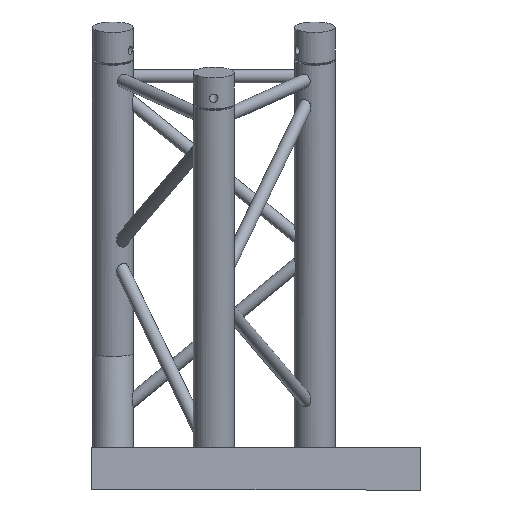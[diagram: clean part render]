
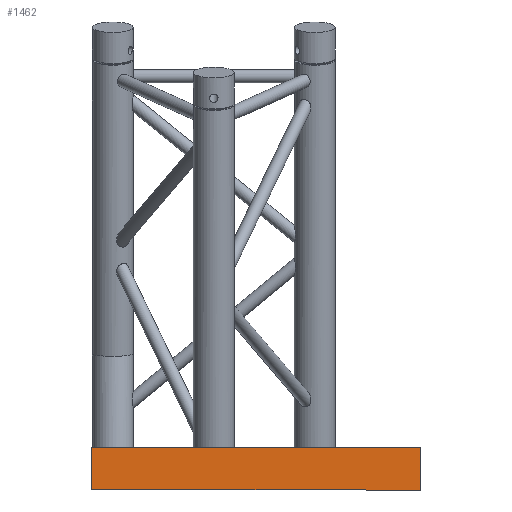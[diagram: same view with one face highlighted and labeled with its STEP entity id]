
A CAD part, front view. The second image highlights one B-rep face of the part: STEP entity #1462.
In plain terms, the highlighted planar face has unit normal (0, -1, 0).
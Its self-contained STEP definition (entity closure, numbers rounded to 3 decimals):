
#102=LINE('',#2822,#170);
#104=LINE('',#2826,#172);
#106=LINE('',#2830,#174);
#108=LINE('',#2833,#176);
#170=VECTOR('',#1994,389.);
#172=VECTOR('',#1998,50.);
#174=VECTOR('',#2002,50.);
#176=VECTOR('',#2006,389.);
#375=FACE_OUTER_BOUND('',#516,.T.);
#516=EDGE_LOOP('',(#1200,#1201,#1202,#1203));
#696=VERTEX_POINT('',#2819);
#697=VERTEX_POINT('',#2821);
#698=VERTEX_POINT('',#2825);
#699=VERTEX_POINT('',#2829);
#864=EDGE_CURVE('',#696,#697,#102,.T.);
#866=EDGE_CURVE('',#698,#697,#104,.T.);
#868=EDGE_CURVE('',#696,#699,#106,.T.);
#870=EDGE_CURVE('',#699,#698,#108,.T.);
#1200=ORIENTED_EDGE('',*,*,#868,.T.);
#1201=ORIENTED_EDGE('',*,*,#870,.T.);
#1202=ORIENTED_EDGE('',*,*,#866,.T.);
#1203=ORIENTED_EDGE('',*,*,#864,.F.);
#1296=PLANE('',#1624);
#1462=ADVANCED_FACE('',(#375),#1296,.T.);
#1624=AXIS2_PLACEMENT_3D('',#2834,#2007,#2008);
#1994=DIRECTION('',(1.,0.,0.));
#1998=DIRECTION('',(0.,0.,1.));
#2002=DIRECTION('',(0.,0.,-1.));
#2006=DIRECTION('',(1.,0.,0.));
#2007=DIRECTION('center_axis',(0.,-1.,0.));
#2008=DIRECTION('ref_axis',(-1.,0.,0.));
#2819=CARTESIAN_POINT('',(-194.5,-343.,67.));
#2821=CARTESIAN_POINT('',(194.5,-343.,67.));
#2822=CARTESIAN_POINT('',(0.,-343.,67.));
#2825=CARTESIAN_POINT('',(194.5,-343.,17.));
#2826=CARTESIAN_POINT('',(194.5,-343.,21.));
#2829=CARTESIAN_POINT('',(-194.5,-343.,17.));
#2830=CARTESIAN_POINT('',(-194.5,-343.,21.));
#2833=CARTESIAN_POINT('',(0.,-343.,17.));
#2834=CARTESIAN_POINT('Origin',(0.,-343.,21.));
